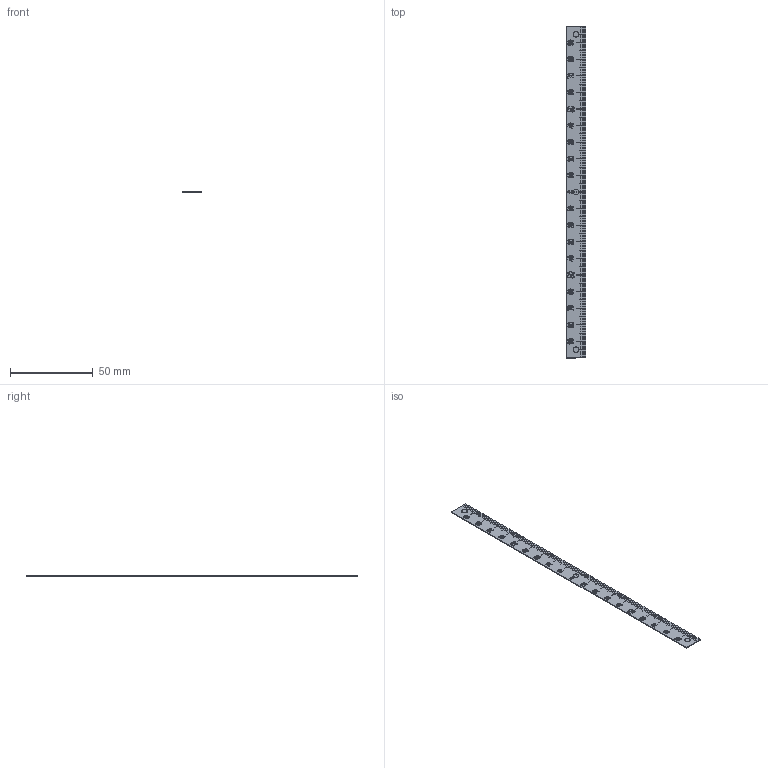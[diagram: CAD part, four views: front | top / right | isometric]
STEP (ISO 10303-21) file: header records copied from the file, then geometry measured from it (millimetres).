
FILE_DESCRIPTION (( 'STEP AP203' ), '1' );
FILE_NAME ('es1n-d100100.STEP', '2023-06-15T07:06:46', ( '' ), ( '' ), 'SwSTEP 2.0', 'SolidWorks 2021', '' );
FILE_SCHEMA (( 'CONFIG_CONTROL_DESIGN' ));
Length unit declared in the file: millimetre
Products named in the file (1): es1n-d100100
Bounding box: 12 x 200 x 0.5 mm (x, y, z)
Volume: 1198.5 mm3; surface area: 5030.9 mm2
Topology: 1 solids, 1 shells, 1551 faces, 4434 edges, 2956 vertices
Faces by surface type: plane 971, bspline 566, cylinder 14
Entity records: 71505 total; most frequent: CARTESIAN_POINT 34796, ORIENTED_EDGE 8868, DIRECTION 5302, EDGE_CURVE 4434, LINE 3274, VECTOR 3274, VERTEX_POINT 2956, EDGE_LOOP 1622
